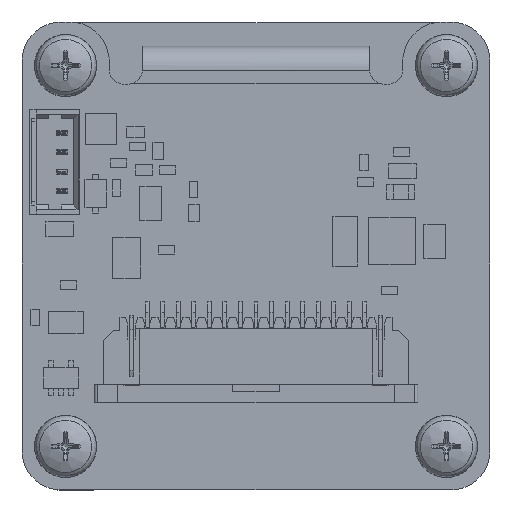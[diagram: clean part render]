
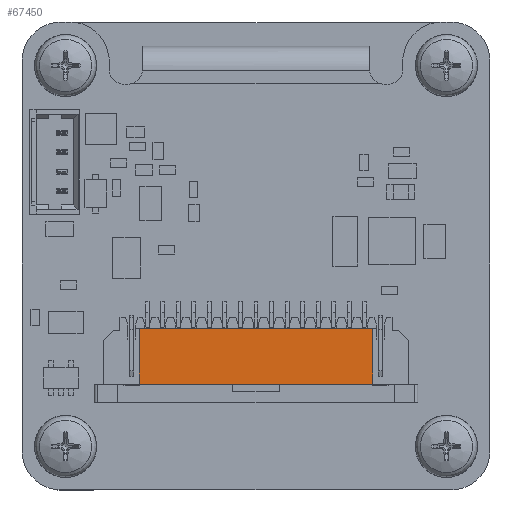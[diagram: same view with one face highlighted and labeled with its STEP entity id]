
A CAD part, top view. The second image highlights one B-rep face of the part: STEP entity #67450.
In plain terms, the highlighted planar face has unit normal (0, 0, 1).
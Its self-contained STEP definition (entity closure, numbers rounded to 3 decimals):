
#6804=LINE('',#97844,#15553);
#6805=LINE('',#97846,#15554);
#6806=LINE('',#97848,#15555);
#6807=LINE('',#97849,#15556);
#15553=VECTOR('',#80495,1.);
#15554=VECTOR('',#80496,1.);
#15555=VECTOR('',#80497,1.);
#15556=VECTOR('',#80498,1.);
#22056=PLANE('',#71420);
#25929=FACE_OUTER_BOUND('',#29442,.T.);
#29442=EDGE_LOOP('',(#55221,#55222,#55223,#55224));
#34673=VERTEX_POINT('',#97842);
#34674=VERTEX_POINT('',#97843);
#34675=VERTEX_POINT('',#97845);
#34676=VERTEX_POINT('',#97847);
#42032=EDGE_CURVE('',#34673,#34674,#6804,.T.);
#42033=EDGE_CURVE('',#34673,#34675,#6805,.T.);
#42034=EDGE_CURVE('',#34676,#34675,#6806,.T.);
#42035=EDGE_CURVE('',#34674,#34676,#6807,.T.);
#55221=ORIENTED_EDGE('',*,*,#42032,.F.);
#55222=ORIENTED_EDGE('',*,*,#42033,.T.);
#55223=ORIENTED_EDGE('',*,*,#42034,.F.);
#55224=ORIENTED_EDGE('',*,*,#42035,.F.);
#67450=ADVANCED_FACE('',(#25929),#22056,.F.);
#71420=AXIS2_PLACEMENT_3D('',#97841,#80493,#80494);
#80493=DIRECTION('center_axis',(0.,0.,-1.));
#80494=DIRECTION('ref_axis',(-1.,0.,0.));
#80495=DIRECTION('',(1.,0.,0.));
#80496=DIRECTION('',(0.,-1.,0.));
#80497=DIRECTION('',(-1.,0.,0.));
#80498=DIRECTION('',(0.,-1.,0.));
#97841=CARTESIAN_POINT('Origin',(24.8,5.55,2.713));
#97842=CARTESIAN_POINT('',(7.5,10.35,2.713));
#97843=CARTESIAN_POINT('',(22.5,10.35,2.713));
#97844=CARTESIAN_POINT('',(7.5,10.35,2.713));
#97845=CARTESIAN_POINT('',(7.5,6.75,2.713));
#97846=CARTESIAN_POINT('',(7.5,10.35,2.713));
#97847=CARTESIAN_POINT('',(22.5,6.75,2.713));
#97848=CARTESIAN_POINT('',(22.5,6.75,2.713));
#97849=CARTESIAN_POINT('',(22.5,10.35,2.713));
